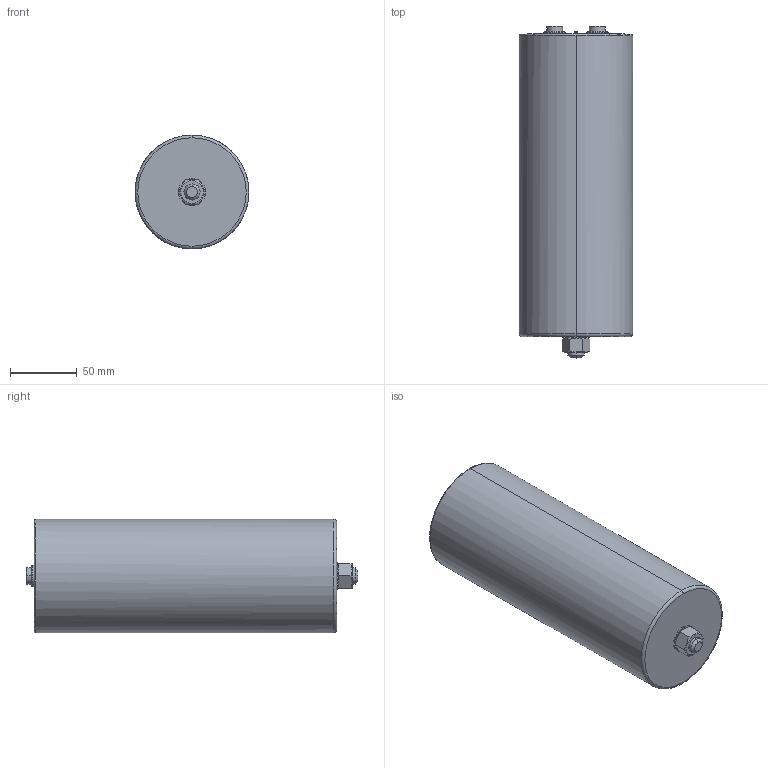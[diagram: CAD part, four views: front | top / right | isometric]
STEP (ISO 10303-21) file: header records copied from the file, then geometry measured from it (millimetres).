
FILE_DESCRIPTION (( 'STEP AP214' ), '1' );
FILE_NAME ('B25694M Series D85 Hc226 Ht232.STEP', '2025-07-24T05:25:25', ( '' ), ( '' ), 'SwSTEP 2.0', 'SolidWorks 2019', '' );
FILE_SCHEMA (( 'AUTOMOTIVE_DESIGN' ));
Length unit declared in the file: millimetre
Products named in the file (1): B25694M Series D85 Hc226 Ht232
Bounding box: 85 x 248 x 85 mm (x, y, z)
Volume: 1287142.3 mm3; surface area: 73156.2 mm2
Topology: 1 solids, 2 shells, 137 faces, 331 edges, 202 vertices
Faces by surface type: plane 59, cylinder 48, cone 22, torus 8
Entity records: 4131 total; most frequent: CARTESIAN_POINT 799, DIRECTION 761, ORIENTED_EDGE 654, EDGE_CURVE 327, AXIS2_PLACEMENT_3D 308, VERTEX_POINT 202, CIRCLE 170, EDGE_LOOP 147
